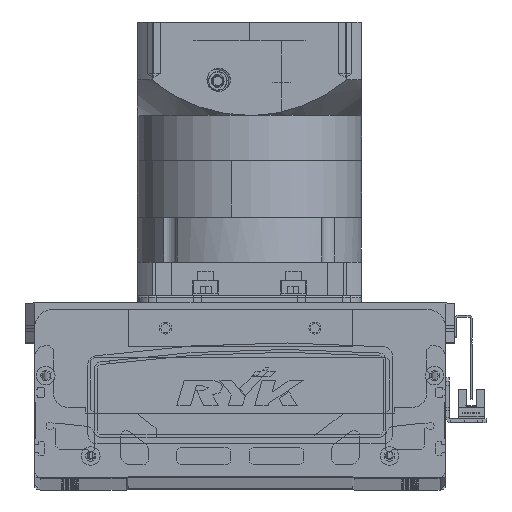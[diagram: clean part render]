
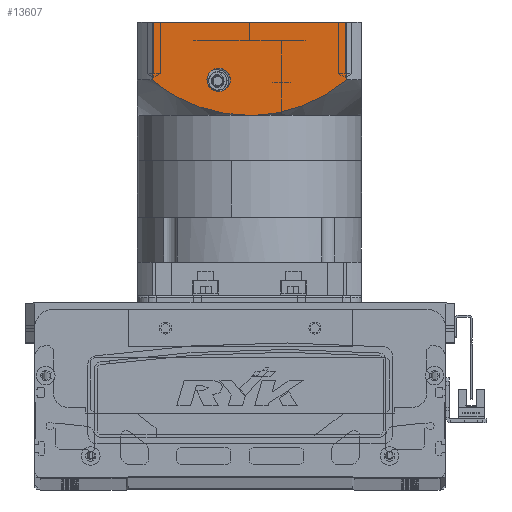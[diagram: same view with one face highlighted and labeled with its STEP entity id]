
A CAD part, top view. The second image highlights one B-rep face of the part: STEP entity #13607.
In plain terms, the highlighted planar face has unit normal (0, 0, 1) as drawn and (0, -1, 0) by its records, which use the part's own axes.
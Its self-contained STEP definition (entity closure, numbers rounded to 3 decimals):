
#916 = CARTESIAN_POINT ( 'NONE',  ( 16.5, -60., -119.5 ) ) ;
#3339 = EDGE_CURVE ( 'NONE', #44624, #71779, #17209, .T. ) ;
#3649 = CARTESIAN_POINT ( 'NONE',  ( -52.156, -60., -119.5 ) ) ;
#4436 = CARTESIAN_POINT ( 'NONE',  ( 25.577, -60., -104.596 ) ) ;
#5364 = CARTESIAN_POINT ( 'NONE',  ( -2.376, -60., -100.5 ) ) ;
#6958 = FACE_BOUND ( 'NONE', #77592, .T. ) ;
#10129 = ORIENTED_EDGE ( 'NONE', *, *, #44503, .T. ) ;
#10297 = CARTESIAN_POINT ( 'NONE',  ( 16.5, -60., -113.25 ) ) ;
#10497 = LINE ( 'NONE', #40574, #34069 ) ;
#10749 = CARTESIAN_POINT ( 'NONE',  ( 4.753, -60., -100.5 ) ) ;
#11138 = CARTESIAN_POINT ( 'NONE',  ( -11.825, -60., -101.356 ) ) ;
#11394 = CARTESIAN_POINT ( 'NONE',  ( -18.792, -60., -102.562 ) ) ;
#11706 = CARTESIAN_POINT ( 'NONE',  ( 52.156, -60., -150.5 ) ) ;
#12043 = EDGE_LOOP ( 'NONE', ( #34977, #10129, #32579, #70364, #51938 ) ) ;
#13607 = ADVANCED_FACE ( 'NONE', ( #60646, #6958 ), #28322, .T. ) ;
#13702 = ORIENTED_EDGE ( 'NONE', *, *, #23653, .T. ) ;
#16757 = CARTESIAN_POINT ( 'NONE',  ( 52.156, -60., -119.5 ) ) ;
#17209 = B_SPLINE_CURVE_WITH_KNOTS ( 'NONE', 3,
 ( #58697, #10749, #64230, #22080, #28675, #76109, #70832, #70054, #4436, #34703, #53146, #70318, #34196, #40245, #76916, #58427, #28406, #16757 ),
 .UNSPECIFIED., .F., .F.,
 ( 4, 2, 2, 2, 2, 2, 2, 2, 4 ),
 ( 0., 0.014, 0.018, 0.021, 0.028, 0.042, 0.046, 0.05, 0.057 ),
 .UNSPECIFIED. ) ;
#18184 = CARTESIAN_POINT ( 'NONE',  ( -29.939, -60., -106.183 ) ) ;
#18452 = VERTEX_POINT ( 'NONE', #62778 ) ;
#21526 = EDGE_CURVE ( 'NONE', #27621, #71779, #10497, .T. ) ;
#21991 = DIRECTION ( 'NONE',  ( 1., 0., 0. ) ) ;
#22080 = CARTESIAN_POINT ( 'NONE',  ( 15.267, -60., -101.938 ) ) ;
#22440 = CIRCLE ( 'NONE', #46735, 6.25 ) ;
#23256 = CARTESIAN_POINT ( 'NONE',  ( -4.747, -60., -100.604 ) ) ;
#23410 = CARTESIAN_POINT ( 'NONE',  ( 0., -60., -100.5 ) ) ;
#23517 = CARTESIAN_POINT ( 'NONE',  ( -32.118, -60., -107.084 ) ) ;
#23557 = B_SPLINE_CURVE_WITH_KNOTS ( 'NONE', 3,
 ( #70718, #40672, #40923, #24051, #59349, #77837, #59601, #23517, #18184, #71757, #11394, #35861, #11138, #78082, #77569, #23256, #5364, #47250 ),
 .UNSPECIFIED., .F., .F.,
 ( 4, 2, 2, 2, 2, 2, 2, 2, 4 ),
 ( 0., 0.014, 0.018, 0.021, 0.028, 0.042, 0.046, 0.05, 0.057 ),
 .UNSPECIFIED. ) ;
#23653 = EDGE_CURVE ( 'NONE', #18452, #66465, #74006, .T. ) ;
#24008 = DIRECTION ( 'NONE',  ( 0., 1., 0. ) ) ;
#24051 = CARTESIAN_POINT ( 'NONE',  ( -39.546, -60., -110.776 ) ) ;
#24650 = CARTESIAN_POINT ( 'NONE',  ( 52.156, -60., -119.5 ) ) ;
#26025 = VERTEX_POINT ( 'NONE', #34113 ) ;
#27621 = VERTEX_POINT ( 'NONE', #11706 ) ;
#27679 = DIRECTION ( 'NONE',  ( 0., 0., 1. ) ) ;
#28322 = PLANE ( 'NONE',  #48593 ) ;
#28406 = CARTESIAN_POINT ( 'NONE',  ( 50.338, -60., -117.969 ) ) ;
#28675 = CARTESIAN_POINT ( 'NONE',  ( 16.426, -60., -102.169 ) ) ;
#30206 = LINE ( 'NONE', #38193, #60355 ) ;
#30819 = DIRECTION ( 'NONE',  ( 0., 0., -1. ) ) ;
#32022 = ORIENTED_EDGE ( 'NONE', *, *, #64266, .T. ) ;
#32579 = ORIENTED_EDGE ( 'NONE', *, *, #21526, .T. ) ;
#34069 = VECTOR ( 'NONE', #27679, 1000. ) ;
#34113 = CARTESIAN_POINT ( 'NONE',  ( -52.156, -60., -150.5 ) ) ;
#34196 = CARTESIAN_POINT ( 'NONE',  ( 42.555, -60., -112.543 ) ) ;
#34500 = AXIS2_PLACEMENT_3D ( 'NONE', #58800, #24008, #30819 ) ;
#34703 = CARTESIAN_POINT ( 'NONE',  ( 32.196, -60., -107.007 ) ) ;
#34977 = ORIENTED_EDGE ( 'NONE', *, *, #50104, .F. ) ;
#35861 = CARTESIAN_POINT ( 'NONE',  ( -12.993, -60., -101.537 ) ) ;
#36473 = DIRECTION ( 'NONE',  ( 0., 1., 0. ) ) ;
#38193 = CARTESIAN_POINT ( 'NONE',  ( -60., -60., -150.5 ) ) ;
#40245 = CARTESIAN_POINT ( 'NONE',  ( 44.553, -60., -113.817 ) ) ;
#40574 = CARTESIAN_POINT ( 'NONE',  ( 52.156, -60., -150.5 ) ) ;
#40672 = CARTESIAN_POINT ( 'NONE',  ( -48.52, -60., -116.438 ) ) ;
#40923 = CARTESIAN_POINT ( 'NONE',  ( -44.656, -60., -113.73 ) ) ;
#43054 = DIRECTION ( 'NONE',  ( 0., 0., -1. ) ) ;
#44252 = DIRECTION ( 'NONE',  ( 1., 0., 0. ) ) ;
#44503 = EDGE_CURVE ( 'NONE', #26025, #27621, #30206, .T. ) ;
#44624 = VERTEX_POINT ( 'NONE', #23410 ) ;
#46735 = AXIS2_PLACEMENT_3D ( 'NONE', #916, #36473, #43054 ) ;
#47066 = VERTEX_POINT ( 'NONE', #3649 ) ;
#47250 = CARTESIAN_POINT ( 'NONE',  ( 0., -60., -100.5 ) ) ;
#48593 = AXIS2_PLACEMENT_3D ( 'NONE', #75779, #76028, #21991 ) ;
#50104 = EDGE_CURVE ( 'NONE', #26025, #47066, #77987, .T. ) ;
#51938 = ORIENTED_EDGE ( 'NONE', *, *, #64598, .F. ) ;
#53146 = CARTESIAN_POINT ( 'NONE',  ( 36.444, -60., -108.986 ) ) ;
#58427 = CARTESIAN_POINT ( 'NONE',  ( 48.457, -60., -116.522 ) ) ;
#58697 = CARTESIAN_POINT ( 'NONE',  ( 0., -60., -100.5 ) ) ;
#58800 = CARTESIAN_POINT ( 'NONE',  ( 16.5, -60., -119.5 ) ) ;
#59349 = CARTESIAN_POINT ( 'NONE',  ( -38.51, -60., -110.207 ) ) ;
#59469 = CARTESIAN_POINT ( 'NONE',  ( -52.156, -60., -97.5 ) ) ;
#59601 = CARTESIAN_POINT ( 'NONE',  ( -35.342, -60., -108.587 ) ) ;
#60355 = VECTOR ( 'NONE', #44252, 1000. ) ;
#60646 = FACE_OUTER_BOUND ( 'NONE', #12043, .T. ) ;
#61890 = VECTOR ( 'NONE', #65527, 1000. ) ;
#62778 = CARTESIAN_POINT ( 'NONE',  ( 16.5, -60., -125.75 ) ) ;
#64230 = CARTESIAN_POINT ( 'NONE',  ( 9.454, -60., -100.914 ) ) ;
#64266 = EDGE_CURVE ( 'NONE', #66465, #18452, #22440, .T. ) ;
#64598 = EDGE_CURVE ( 'NONE', #47066, #44624, #23557, .T. ) ;
#65527 = DIRECTION ( 'NONE',  ( 0., 0., 1. ) ) ;
#66465 = VERTEX_POINT ( 'NONE', #10297 ) ;
#70054 = CARTESIAN_POINT ( 'NONE',  ( 23.329, -60., -103.886 ) ) ;
#70318 = CARTESIAN_POINT ( 'NONE',  ( 41.545, -60., -111.931 ) ) ;
#70364 = ORIENTED_EDGE ( 'NONE', *, *, #3339, .F. ) ;
#70718 = CARTESIAN_POINT ( 'NONE',  ( -52.156, -60., -119.5 ) ) ;
#70832 = CARTESIAN_POINT ( 'NONE',  ( 19.894, -60., -102.964 ) ) ;
#71757 = CARTESIAN_POINT ( 'NONE',  ( -23.319, -60., -103.777 ) ) ;
#71779 = VERTEX_POINT ( 'NONE', #24650 ) ;
#74006 = CIRCLE ( 'NONE', #34500, 6.25 ) ;
#75779 = CARTESIAN_POINT ( 'NONE',  ( -60., -60., -150.5 ) ) ;
#76028 = DIRECTION ( 'NONE',  ( 0., -1., 0. ) ) ;
#76109 = CARTESIAN_POINT ( 'NONE',  ( 18.739, -60., -102.681 ) ) ;
#76916 = CARTESIAN_POINT ( 'NONE',  ( 45.542, -60., -114.478 ) ) ;
#77569 = CARTESIAN_POINT ( 'NONE',  ( -8.294, -60., -100.916 ) ) ;
#77592 = EDGE_LOOP ( 'NONE', ( #13702, #32022 ) ) ;
#77837 = CARTESIAN_POINT ( 'NONE',  ( -36.409, -60., -109.113 ) ) ;
#77987 = LINE ( 'NONE', #59469, #61890 ) ;
#78082 = CARTESIAN_POINT ( 'NONE',  ( -9.477, -60., -101.046 ) ) ;
